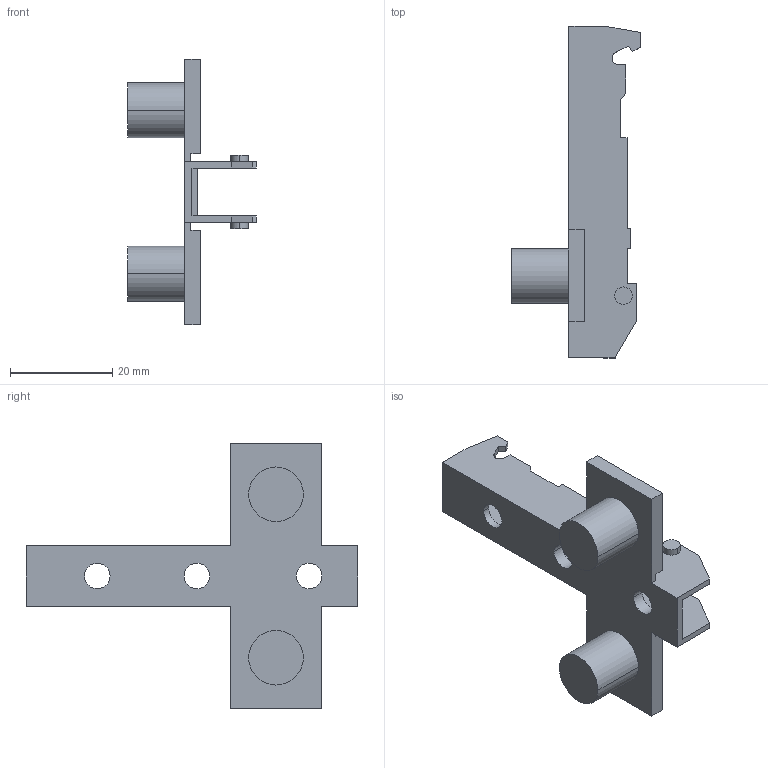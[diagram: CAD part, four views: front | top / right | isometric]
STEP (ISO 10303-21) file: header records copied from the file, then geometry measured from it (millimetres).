
FILE_DESCRIPTION (( 'STEP AP214' ), '1' );
FILE_NAME ('Eco Kreuzmontageplatte LR28_32_Dübel 10mm_H3,5.step', '2010-11-18T10:06:49', ( 'grass' ), ( '' ), 'SwSTEP 2.0', 'SolidWorks 2010', '' );
FILE_SCHEMA (( 'AUTOMOTIVE_DESIGN' ));
Length unit declared in the file: millimetre
Products named in the file (1): Eco Kreuzmontageplatte LR28_32_Dübel 10mm_H3,5
Bounding box: 25.2 x 65 x 52 mm (x, y, z)
Volume: 6665.3 mm3; surface area: 7048.4 mm2
Topology: 1 solids, 1 shells, 98 faces, 262 edges, 172 vertices
Faces by surface type: plane 74, cylinder 20, cone 4
Entity records: 3072 total; most frequent: CARTESIAN_POINT 533, ORIENTED_EDGE 524, DIRECTION 504, EDGE_CURVE 262, VECTOR 218, LINE 218, VERTEX_POINT 172, AXIS2_PLACEMENT_3D 143
